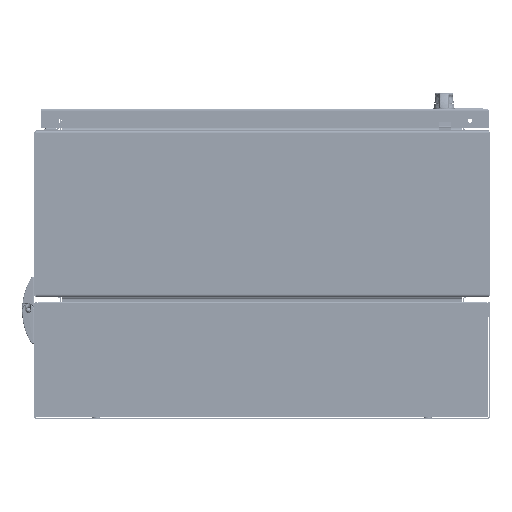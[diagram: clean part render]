
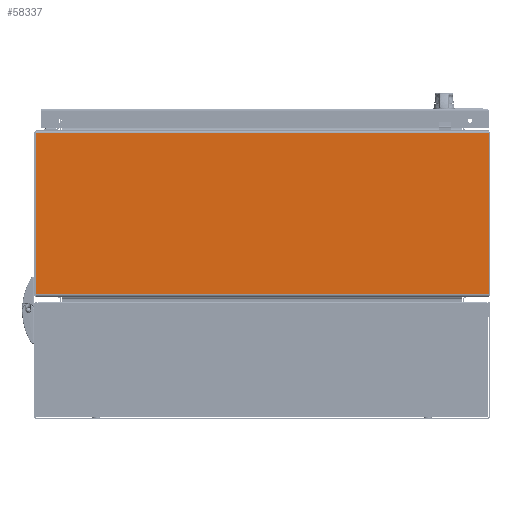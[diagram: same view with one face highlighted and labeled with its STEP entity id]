
A CAD part, front view. The second image highlights one B-rep face of the part: STEP entity #58337.
In plain terms, the highlighted planar face has unit normal (0, -1, 0).
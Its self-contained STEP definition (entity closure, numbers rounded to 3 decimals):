
#7849 = CARTESIAN_POINT ( 'NONE',  ( 298.171, 0., -110. ) ) ;
#7858 = DIRECTION ( 'NONE',  ( 0., 0., -1. ) ) ;
#7877 = CARTESIAN_POINT ( 'NONE',  ( 298.171, 0., 105.885 ) ) ;
#7879 = DIRECTION ( 'NONE',  ( -1., 0., 0. ) ) ;
#7887 = CARTESIAN_POINT ( 'NONE',  ( -298.171, 0., -110. ) ) ;
#7901 = DIRECTION ( 'NONE',  ( 0., 0., 1. ) ) ;
#7921 = CARTESIAN_POINT ( 'NONE',  ( -298.171, 0., -105.885 ) ) ;
#7923 = DIRECTION ( 'NONE',  ( 1., 0., 0. ) ) ;
#10518 = AXIS2_PLACEMENT_3D ( 'NONE', #111880, #111908, #111910 ) ;
#13266 = CARTESIAN_POINT ( 'NONE',  ( 298.171, 0., -105.885 ) ) ;
#13268 = CARTESIAN_POINT ( 'NONE',  ( 298.171, 0., 105.885 ) ) ;
#13269 = CARTESIAN_POINT ( 'NONE',  ( -298.171, 0., -105.885 ) ) ;
#13271 = CARTESIAN_POINT ( 'NONE',  ( -298.171, 0., 105.885 ) ) ;
#50042 = EDGE_CURVE ( 'NONE', #55752, #55751, #169546, .T. ) ;
#50048 = EDGE_CURVE ( 'NONE', #55752, #55754, #169568, .T. ) ;
#50057 = EDGE_CURVE ( 'NONE', #55753, #55754, #169585, .T. ) ;
#50064 = EDGE_CURVE ( 'NONE', #55753, #55751, #169592, .T. ) ;
#55751 = VERTEX_POINT ( 'NONE', #13266 ) ;
#55752 = VERTEX_POINT ( 'NONE', #13268 ) ;
#55753 = VERTEX_POINT ( 'NONE', #13269 ) ;
#55754 = VERTEX_POINT ( 'NONE', #13271 ) ;
#58337 = ADVANCED_FACE ( 'NONE', ( #109917 ), #111896, .F. ) ;
#60499 = ORIENTED_EDGE ( 'NONE', *, *, #50064, .T. ) ;
#60500 = ORIENTED_EDGE ( 'NONE', *, *, #50042, .F. ) ;
#60501 = ORIENTED_EDGE ( 'NONE', *, *, #50048, .T. ) ;
#60502 = ORIENTED_EDGE ( 'NONE', *, *, #50057, .F. ) ;
#91774 = EDGE_LOOP ( 'NONE', ( #60499, #60500, #60501, #60502 ) ) ;
#109917 = FACE_OUTER_BOUND ( 'NONE', #91774, .T. ) ;
#111880 = CARTESIAN_POINT ( 'NONE',  ( 298.171, 0., 110. ) ) ;
#111896 = PLANE ( 'NONE',  #10518 ) ;
#111908 = DIRECTION ( 'NONE',  ( 0., 1., 0. ) ) ;
#111910 = DIRECTION ( 'NONE',  ( 0., 0., 1. ) ) ;
#169546 = LINE ( 'NONE', #7849, #169553 ) ;
#169553 = VECTOR ( 'NONE', #7858, 1000. ) ;
#169568 = LINE ( 'NONE', #7877, #169571 ) ;
#169571 = VECTOR ( 'NONE', #7879, 1000. ) ;
#169575 = VECTOR ( 'NONE', #7923, 1000. ) ;
#169579 = VECTOR ( 'NONE', #7901, 1000. ) ;
#169585 = LINE ( 'NONE', #7887, #169579 ) ;
#169592 = LINE ( 'NONE', #7921, #169575 ) ;
